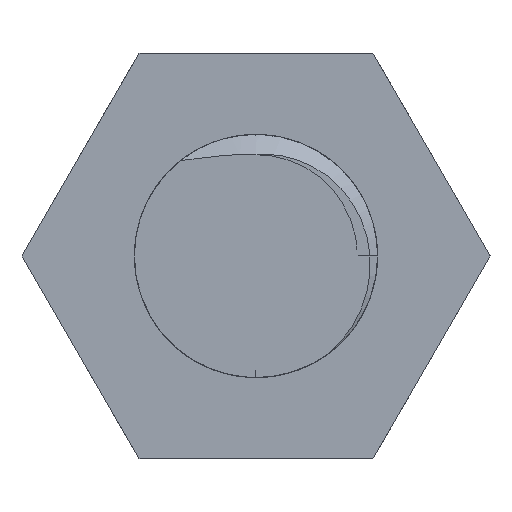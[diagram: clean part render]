
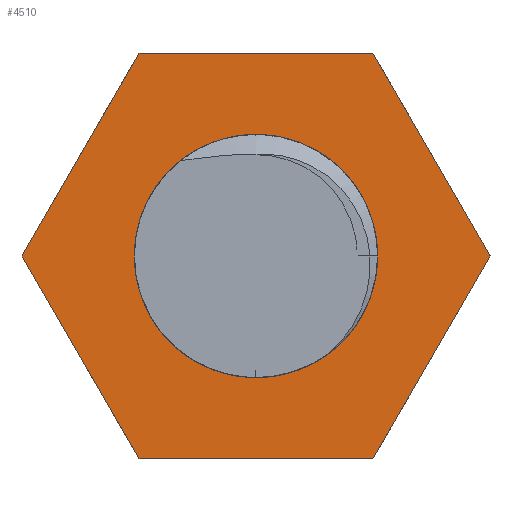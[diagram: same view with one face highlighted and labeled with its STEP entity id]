
A CAD part, front view. The second image highlights one B-rep face of the part: STEP entity #4510.
In plain terms, the highlighted planar face has unit normal (0, -1, 0).
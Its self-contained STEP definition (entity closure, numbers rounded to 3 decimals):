
#4215=AXIS2_PLACEMENT_3D('Circle Axis2P3D',#4213,#4214,$) ;
#4366=AXIS2_PLACEMENT_3D('Circle Axis2P3D',#4364,#4365,$) ;
#4454=AXIS2_PLACEMENT_3D('Plane Axis2P3D',#4451,#4452,#4453) ;
#4132=CARTESIAN_POINT('Vertex',(130.5,23.,22.6)) ;
#4210=CARTESIAN_POINT('Vertex',(136.5,23.,22.6)) ;
#4213=CARTESIAN_POINT('Axis2P3D Location',(133.5,23.,22.6)) ;
#4364=CARTESIAN_POINT('Axis2P3D Location',(133.5,23.,22.6)) ;
#4451=CARTESIAN_POINT('Axis2P3D Location',(133.5,23.,22.6)) ;
#4456=CARTESIAN_POINT('Line Origine',(129.17,23.,25.1)) ;
#4460=CARTESIAN_POINT('Vertex',(127.726,23.,22.6)) ;
#4462=CARTESIAN_POINT('Vertex',(130.613,23.,27.6)) ;
#4465=CARTESIAN_POINT('Line Origine',(129.17,23.,20.1)) ;
#4469=CARTESIAN_POINT('Vertex',(130.613,23.,17.6)) ;
#4472=CARTESIAN_POINT('Line Origine',(133.5,23.,17.6)) ;
#4476=CARTESIAN_POINT('Vertex',(136.387,23.,17.6)) ;
#4479=CARTESIAN_POINT('Line Origine',(137.83,23.,20.1)) ;
#4483=CARTESIAN_POINT('Vertex',(139.274,23.,22.6)) ;
#4486=CARTESIAN_POINT('Line Origine',(137.83,23.,25.1)) ;
#4490=CARTESIAN_POINT('Vertex',(136.387,23.,27.6)) ;
#4493=CARTESIAN_POINT('Line Origine',(133.5,23.,27.6)) ;
#4214=DIRECTION('Axis2P3D Direction',(0.,1.,0.)) ;
#4365=DIRECTION('Axis2P3D Direction',(0.,1.,0.)) ;
#4452=DIRECTION('Axis2P3D Direction',(0.,1.,-0.)) ;
#4453=DIRECTION('Axis2P3D XDirection',(-1.,0.,0.)) ;
#4457=DIRECTION('Vector Direction',(0.5,0.,0.866)) ;
#4466=DIRECTION('Vector Direction',(-0.5,0.,0.866)) ;
#4473=DIRECTION('Vector Direction',(-1.,0.,0.)) ;
#4480=DIRECTION('Vector Direction',(-0.5,0.,-0.866)) ;
#4487=DIRECTION('Vector Direction',(0.5,0.,-0.866)) ;
#4494=DIRECTION('Vector Direction',(-1.,0.,0.)) ;
#4458=VECTOR('Line Direction',#4457,1.) ;
#4467=VECTOR('Line Direction',#4466,1.) ;
#4474=VECTOR('Line Direction',#4473,1.) ;
#4481=VECTOR('Line Direction',#4480,1.) ;
#4488=VECTOR('Line Direction',#4487,1.) ;
#4495=VECTOR('Line Direction',#4494,1.) ;
#4499=ORIENTED_EDGE('',*,*,#4464,.F.) ;
#4500=ORIENTED_EDGE('',*,*,#4471,.F.) ;
#4501=ORIENTED_EDGE('',*,*,#4478,.F.) ;
#4502=ORIENTED_EDGE('',*,*,#4485,.F.) ;
#4503=ORIENTED_EDGE('',*,*,#4492,.F.) ;
#4504=ORIENTED_EDGE('',*,*,#4497,.F.) ;
#4507=ORIENTED_EDGE('',*,*,#4217,.T.) ;
#4508=ORIENTED_EDGE('',*,*,#4368,.T.) ;
#4509=FACE_BOUND('',#4506,.T.) ;
#4510=ADVANCED_FACE('\X2\62E8724765CB8F6C8F74\X0\',(#4505,#4509),#4455,.F.) ;
#4216=CIRCLE('generated circle',#4215,3.) ;
#4367=CIRCLE('generated circle',#4366,3.) ;
#4217=EDGE_CURVE('',#4133,#4211,#4216,.T.) ;
#4368=EDGE_CURVE('',#4211,#4133,#4367,.T.) ;
#4464=EDGE_CURVE('',#4461,#4463,#4459,.T.) ;
#4471=EDGE_CURVE('',#4470,#4461,#4468,.T.) ;
#4478=EDGE_CURVE('',#4477,#4470,#4475,.T.) ;
#4485=EDGE_CURVE('',#4484,#4477,#4482,.T.) ;
#4492=EDGE_CURVE('',#4491,#4484,#4489,.T.) ;
#4497=EDGE_CURVE('',#4463,#4491,#4496,.F.) ;
#4498=EDGE_LOOP('',(#4499,#4500,#4501,#4502,#4503,#4504)) ;
#4506=EDGE_LOOP('',(#4507,#4508)) ;
#4505=FACE_OUTER_BOUND('',#4498,.T.) ;
#4459=LINE('Line',#4456,#4458) ;
#4468=LINE('Line',#4465,#4467) ;
#4475=LINE('Line',#4472,#4474) ;
#4482=LINE('Line',#4479,#4481) ;
#4489=LINE('Line',#4486,#4488) ;
#4496=LINE('Line',#4493,#4495) ;
#4455=PLANE('Plane',#4454) ;
#4133=VERTEX_POINT('',#4132) ;
#4211=VERTEX_POINT('',#4210) ;
#4461=VERTEX_POINT('',#4460) ;
#4463=VERTEX_POINT('',#4462) ;
#4470=VERTEX_POINT('',#4469) ;
#4477=VERTEX_POINT('',#4476) ;
#4484=VERTEX_POINT('',#4483) ;
#4491=VERTEX_POINT('',#4490) ;
